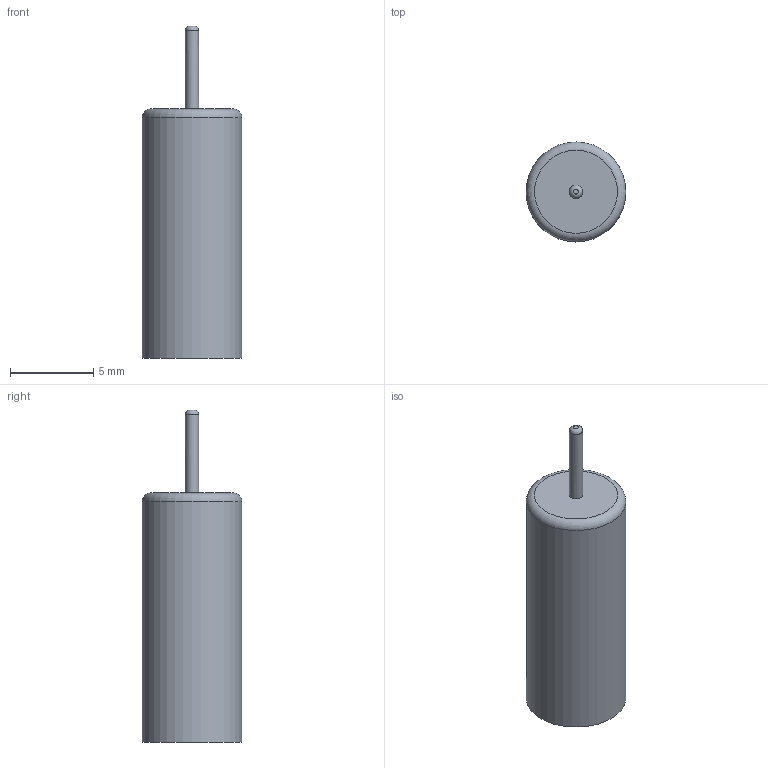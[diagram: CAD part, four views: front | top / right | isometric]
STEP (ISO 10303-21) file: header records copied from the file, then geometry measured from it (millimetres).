
FILE_DESCRIPTION(/* description */ ('STEP AP242 Edition 2','CAx-IF Rec.Pracs.---Representation and Presentation of Product Manufacturing Information (PMI)---4.0---2014-10-13','CAx-IF Rec.Pracs.---3D Tessellated Geometry---0.4---2014-09-14','2;1','CAx-IF Rec.Pracs.---User Defined Attributes---1.5---2016-08-15'),/* implementation_level */ '2;1');
FILE_NAME(/* name */ 'Drone Layout - Body2 (1)',/* time_stamp */ '2026-10-04T22:22:49Z',/* author */ (''),/* organization */ (''),/* preprocessor_version */ 'ST-DEVELOPER v20',/* originating_system */ 'ONSHAPE BY PTC INC, 1.221',/* authorisation */ ' ');
FILE_SCHEMA (('AP242_MANAGED_MODEL_BASED_3D_ENGINEERING_MIM_LF { 1 0 10303 442 3 1 4 }'));
Length unit declared in the file: metre
Products named in the file (1): Body2
Bounding box: 6 x 6 x 20 mm (x, y, z)
Volume: 425.6 mm3; surface area: 347.4 mm2
Topology: 1 solids, 1 shells, 7 faces, 14 edges, 10 vertices
Faces by surface type: plane 3, torus 2, cylinder 2
Full cylindrical faces by diameter (mm): 0.8 x1, 6 x1
Entity records: 218 total; most frequent: CARTESIAN_POINT 49, DIRECTION 32, ORIENTED_EDGE 26, AXIS2_PLACEMENT_3D 15, EDGE_CURVE 13, VERTEX_POINT 10, EDGE_LOOP 9, FACE_BOUND 9
